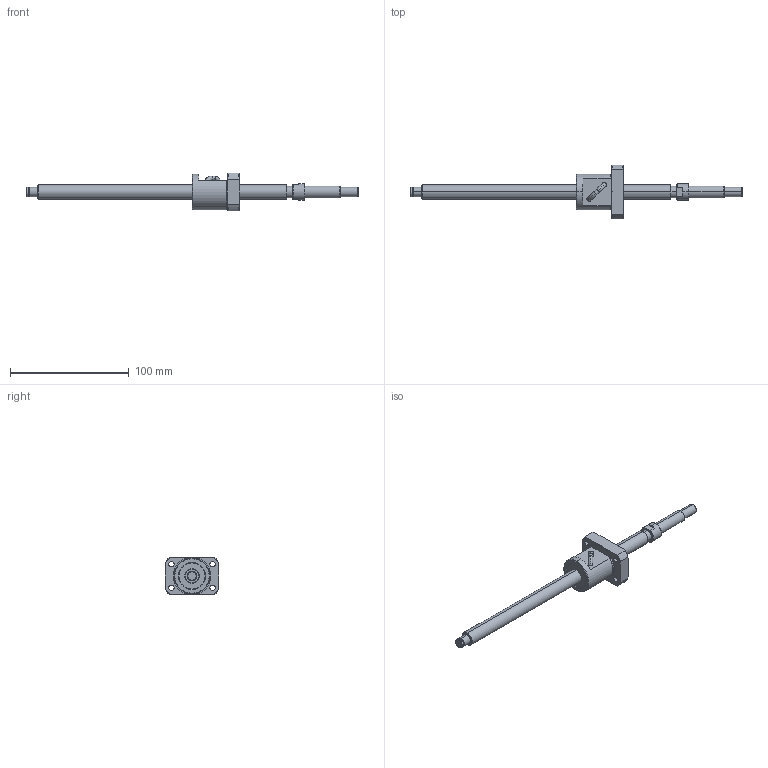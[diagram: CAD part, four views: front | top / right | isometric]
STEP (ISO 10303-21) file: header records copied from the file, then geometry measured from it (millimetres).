
FILE_DESCRIPTION (( 'STEP AP214' ), '1' );
FILE_NAME ('BS1205A-3D.STEP', '2014-03-07T18:13:37', ( '' ), ( '' ), 'SwSTEP 2.0', 'SolidWorks 2012', '' );
FILE_SCHEMA (( 'AUTOMOTIVE_DESIGN' ));
Length unit declared in the file: millimetre
Products named in the file (3): BS1205AŽ²; BS1205Aナット; BS1205A-3D
Assembly tree (2 placements, depth 2):
  BS1205A-3D
    BS1205Aナット
    BS1205AŽ²
Bounding box: 280 x 45 x 32 mm (x, y, z)
Volume: 55625.7 mm3; surface area: 22505.1 mm2
Topology: 5 solids, 5 shells, 163 faces, 409 edges, 265 vertices
Faces by surface type: cylinder 78, plane 45, cone 34, torus 4, bspline 2
Entity records: 6303 total; most frequent: CARTESIAN_POINT 2135, DIRECTION 866, ORIENTED_EDGE 814, EDGE_CURVE 407, AXIS2_PLACEMENT_3D 364, VERTEX_POINT 265, EDGE_LOOP 198, CIRCLE 198
